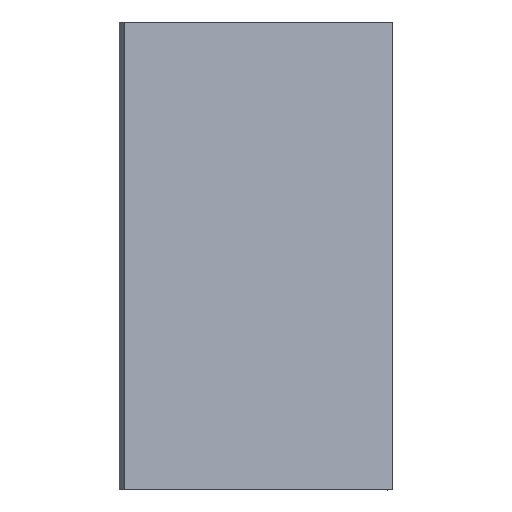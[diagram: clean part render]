
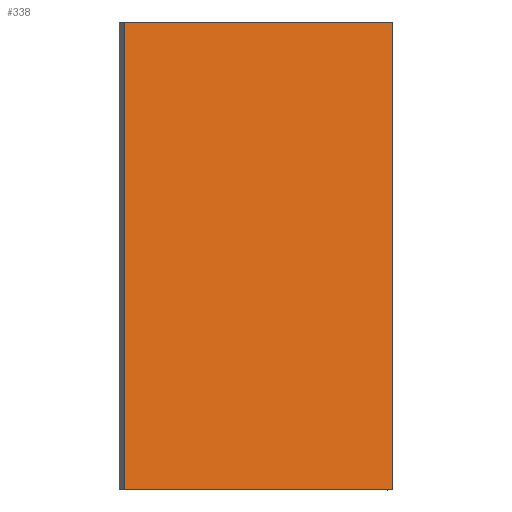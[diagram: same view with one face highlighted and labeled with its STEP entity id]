
A CAD part, top view. The second image highlights one B-rep face of the part: STEP entity #338.
In plain terms, the highlighted planar face has unit normal (0.216, 0, 0.976).
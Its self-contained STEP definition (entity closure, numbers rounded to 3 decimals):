
#24 = VERTEX_POINT('',#25);
#25 = CARTESIAN_POINT('',(-15.961,-17.,209.931));
#32 = PLANE('',#33);
#33 = AXIS2_PLACEMENT_3D('',#34,#35,#36);
#34 = CARTESIAN_POINT('',(-16.307,-17.,208.369));
#35 = DIRECTION('',(0.976,0.,-0.216));
#36 = DIRECTION('',(0.216,0.,0.976));
#44 = PLANE('',#45);
#45 = AXIS2_PLACEMENT_3D('',#46,#47,#48);
#46 = CARTESIAN_POINT('',(-16.307,-17.,208.369));
#47 = DIRECTION('',(0.,1.,0.));
#48 = DIRECTION('',(0.216,0.,0.976));
#85 = VERTEX_POINT('',#86);
#86 = CARTESIAN_POINT('',(-15.961,17.,209.931));
#100 = PLANE('',#101);
#101 = AXIS2_PLACEMENT_3D('',#102,#103,#104);
#102 = CARTESIAN_POINT('',(-16.307,17.,208.369));
#103 = DIRECTION('',(0.,1.,0.));
#104 = DIRECTION('',(0.216,0.,0.976));
#112 = EDGE_CURVE('',#24,#85,#113,.T.);
#113 = SURFACE_CURVE('',#114,(#118,#125),.PCURVE_S1.);
#114 = LINE('',#115,#116);
#115 = CARTESIAN_POINT('',(-15.961,-17.,209.931));
#116 = VECTOR('',#117,1.);
#117 = DIRECTION('',(0.,1.,0.));
#118 = PCURVE('',#32,#119);
#119 = DEFINITIONAL_REPRESENTATION('',(#120),#124);
#120 = LINE('',#121,#122);
#121 = CARTESIAN_POINT('',(1.6,0.));
#122 = VECTOR('',#123,1.);
#123 = DIRECTION('',(0.,-1.));
#124 = ( GEOMETRIC_REPRESENTATION_CONTEXT(2) 
PARAMETRIC_REPRESENTATION_CONTEXT() REPRESENTATION_CONTEXT('2D SPACE',''
  ) );
#125 = PCURVE('',#126,#131);
#126 = PLANE('',#127);
#127 = AXIS2_PLACEMENT_3D('',#128,#129,#130);
#128 = CARTESIAN_POINT('',(-15.961,-17.,209.931));
#129 = DIRECTION('',(0.216,0.,0.976));
#130 = DIRECTION('',(0.976,0.,-0.216));
#131 = DEFINITIONAL_REPRESENTATION('',(#132),#136);
#132 = LINE('',#133,#134);
#133 = CARTESIAN_POINT('',(0.,0.));
#134 = VECTOR('',#135,1.);
#135 = DIRECTION('',(0.,1.));
#136 = ( GEOMETRIC_REPRESENTATION_CONTEXT(2) 
PARAMETRIC_REPRESENTATION_CONTEXT() REPRESENTATION_CONTEXT('2D SPACE',''
  ) );
#144 = VERTEX_POINT('',#145);
#145 = CARTESIAN_POINT('',(3.565,-17.,205.602));
#152 = PLANE('',#153);
#153 = AXIS2_PLACEMENT_3D('',#154,#155,#156);
#154 = CARTESIAN_POINT('',(3.219,-17.,204.04));
#155 = DIRECTION('',(0.976,0.,-0.216));
#156 = DIRECTION('',(0.216,0.,0.976));
#195 = VERTEX_POINT('',#196);
#196 = CARTESIAN_POINT('',(3.565,17.,205.602));
#217 = EDGE_CURVE('',#144,#195,#218,.T.);
#218 = SURFACE_CURVE('',#219,(#223,#230),.PCURVE_S1.);
#219 = LINE('',#220,#221);
#220 = CARTESIAN_POINT('',(3.565,-17.,205.602));
#221 = VECTOR('',#222,1.);
#222 = DIRECTION('',(0.,1.,0.));
#223 = PCURVE('',#152,#224);
#224 = DEFINITIONAL_REPRESENTATION('',(#225),#229);
#225 = LINE('',#226,#227);
#226 = CARTESIAN_POINT('',(1.6,0.));
#227 = VECTOR('',#228,1.);
#228 = DIRECTION('',(0.,-1.));
#229 = ( GEOMETRIC_REPRESENTATION_CONTEXT(2) 
PARAMETRIC_REPRESENTATION_CONTEXT() REPRESENTATION_CONTEXT('2D SPACE',''
  ) );
#230 = PCURVE('',#126,#231);
#231 = DEFINITIONAL_REPRESENTATION('',(#232),#236);
#232 = LINE('',#233,#234);
#233 = CARTESIAN_POINT('',(20.,0.));
#234 = VECTOR('',#235,1.);
#235 = DIRECTION('',(0.,1.));
#236 = ( GEOMETRIC_REPRESENTATION_CONTEXT(2) 
PARAMETRIC_REPRESENTATION_CONTEXT() REPRESENTATION_CONTEXT('2D SPACE',''
  ) );
#263 = EDGE_CURVE('',#24,#144,#264,.T.);
#264 = SURFACE_CURVE('',#265,(#269,#276),.PCURVE_S1.);
#265 = LINE('',#266,#267);
#266 = CARTESIAN_POINT('',(-15.961,-17.,209.931));
#267 = VECTOR('',#268,1.);
#268 = DIRECTION('',(0.976,0.,-0.216));
#269 = PCURVE('',#44,#270);
#270 = DEFINITIONAL_REPRESENTATION('',(#271),#275);
#271 = LINE('',#272,#273);
#272 = CARTESIAN_POINT('',(1.6,0.));
#273 = VECTOR('',#274,1.);
#274 = DIRECTION('',(0.,1.));
#275 = ( GEOMETRIC_REPRESENTATION_CONTEXT(2) 
PARAMETRIC_REPRESENTATION_CONTEXT() REPRESENTATION_CONTEXT('2D SPACE',''
  ) );
#276 = PCURVE('',#126,#277);
#277 = DEFINITIONAL_REPRESENTATION('',(#278),#282);
#278 = LINE('',#279,#280);
#279 = CARTESIAN_POINT('',(0.,0.));
#280 = VECTOR('',#281,1.);
#281 = DIRECTION('',(1.,0.));
#282 = ( GEOMETRIC_REPRESENTATION_CONTEXT(2) 
PARAMETRIC_REPRESENTATION_CONTEXT() REPRESENTATION_CONTEXT('2D SPACE',''
  ) );
#310 = EDGE_CURVE('',#85,#195,#311,.T.);
#311 = SURFACE_CURVE('',#312,(#316,#323),.PCURVE_S1.);
#312 = LINE('',#313,#314);
#313 = CARTESIAN_POINT('',(-15.961,17.,209.931));
#314 = VECTOR('',#315,1.);
#315 = DIRECTION('',(0.976,0.,-0.216));
#316 = PCURVE('',#100,#317);
#317 = DEFINITIONAL_REPRESENTATION('',(#318),#322);
#318 = LINE('',#319,#320);
#319 = CARTESIAN_POINT('',(1.6,0.));
#320 = VECTOR('',#321,1.);
#321 = DIRECTION('',(0.,1.));
#322 = ( GEOMETRIC_REPRESENTATION_CONTEXT(2) 
PARAMETRIC_REPRESENTATION_CONTEXT() REPRESENTATION_CONTEXT('2D SPACE',''
  ) );
#323 = PCURVE('',#126,#324);
#324 = DEFINITIONAL_REPRESENTATION('',(#325),#329);
#325 = LINE('',#326,#327);
#326 = CARTESIAN_POINT('',(0.,34.));
#327 = VECTOR('',#328,1.);
#328 = DIRECTION('',(1.,0.));
#329 = ( GEOMETRIC_REPRESENTATION_CONTEXT(2) 
PARAMETRIC_REPRESENTATION_CONTEXT() REPRESENTATION_CONTEXT('2D SPACE',''
  ) );
#338 = ADVANCED_FACE('',(#339),#126,.T.);
#339 = FACE_BOUND('',#340,.T.);
#340 = EDGE_LOOP('',(#341,#342,#343,#344));
#341 = ORIENTED_EDGE('',*,*,#112,.F.);
#342 = ORIENTED_EDGE('',*,*,#263,.T.);
#343 = ORIENTED_EDGE('',*,*,#217,.T.);
#344 = ORIENTED_EDGE('',*,*,#310,.F.);
